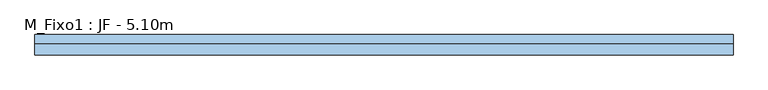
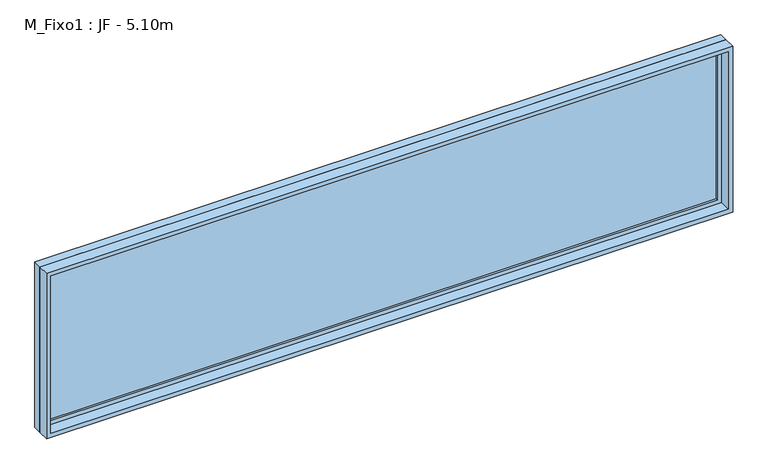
"""IFC4 building model written with IfcOpenShell, lengths in millimetres: window geometry, M_Fixo1 : JF - 5.10m."""

from ifc_helpers import new_model, si_unit, frame, origin, place, context, project, spatial, polyline, outline, extrude, source, transform, mapped, element, save


def m_fixo1_jf_5_10m_2770cfa0(model_context):
    return source(origin(), model_context, "Body", "SweptSolid", [
        extrude(outline(polyline([(-2487.0, 53.0), (2487.0, 53.0), (2487.0, 41.0), (-2487.0, 41.0), (-2487.0, 53.0)])), frame((0.0, 0.0, 978.0), z_axis=(0.0, 0.0, 1.0), x_axis=(1.0, 0.0, 0.0)), (0.0, 0.0, 1.0), 1174.0),
        extrude(outline(polyline([(2196.0, -2531.0), (934.0, -2531.0), (934.0, 2531.0), (2196.0, 2531.0), (2196.0, -2531.0)]), holes=[polyline([(2152.0, -2487.0), (2152.0, 2487.0), (978.0, 2487.0), (978.0, -2487.0), (2152.0, -2487.0)])]), frame((0.0, 25.0, 0.0), z_axis=(0.0, 1.0, 0.0), x_axis=(0.0, 0.0, 1.0)), (0.0, 0.0, 1.0), 44.0),
        extrude(outline(polyline([(2215.0, -2550.0), (915.0, -2550.0), (915.0, 2550.0), (2215.0, 2550.0), (2215.0, -2550.0)]), holes=[polyline([(2196.0, -2531.0), (2196.0, 2531.0), (934.0, 2531.0), (934.0, -2531.0), (2196.0, -2531.0)])]), frame((0.0, 25.0, 0.0), z_axis=(0.0, 1.0, 0.0), x_axis=(0.0, 0.0, 1.0)), (0.0, 0.0, 1.0), 63.0),
        extrude(outline(polyline([(2215.0, -2550.0), (915.0, -2550.0), (915.0, 2550.0), (2215.0, 2550.0), (2215.0, -2550.0)]), holes=[polyline([(2183.0, -2518.0), (2183.0, 2518.0), (947.0, 2518.0), (947.0, -2518.0), (2183.0, -2518.0)])]), frame((0.0, -62.0, 0.0), z_axis=(0.0, 1.0, 0.0), x_axis=(0.0, 0.0, 1.0)), (0.0, 0.0, 1.0), 87.0),
    ])


if __name__ == "__main__":
    model = new_model("IFC4")
    model_context = context("Model", 3, world=origin())
    ifc_project = project(units=[si_unit("LENGTHUNIT", "METRE", prefix="MILLI")], contexts=[model_context])
    site = spatial("IfcSite", under=ifc_project)
    building = spatial("IfcBuilding", under=site)
    placement = place(None, origin())
    m_fixo1_jf_5_10m_shape = m_fixo1_jf_5_10m_2770cfa0(model_context)
    element("IfcWindow", 1, ObjectType="M_Fixo1 : JF - 5.10m", at=placement, inside=building, context=model_context, shape_type="MappedRepresentation", body=[
        mapped(m_fixo1_jf_5_10m_shape, transform((0.0, 0.0, 0.0), x_axis=(1.0, 0.0, 0.0), y_axis=(0.0, 1.0, 0.0), z_axis=(0.0, 0.0, 1.0))),
    ])
    save(model, "model.ifc")
